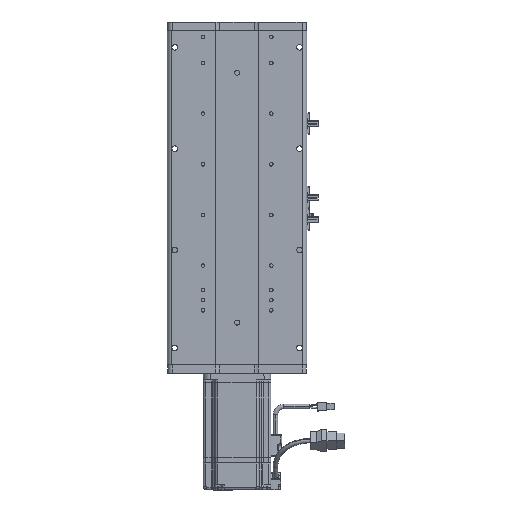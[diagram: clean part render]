
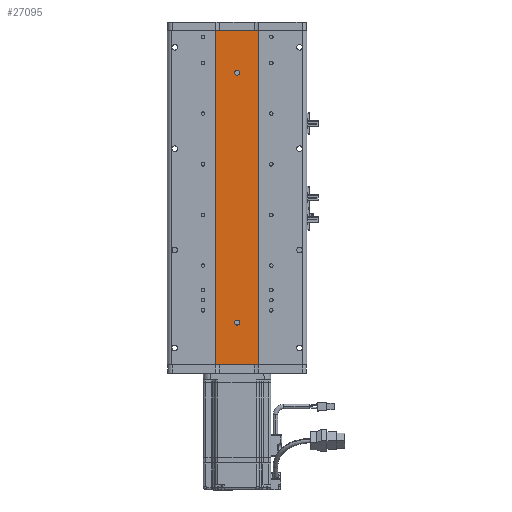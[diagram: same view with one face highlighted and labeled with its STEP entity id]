
A CAD part, front view. The second image highlights one B-rep face of the part: STEP entity #27095.
In plain terms, the highlighted planar face has unit normal (0, -1, 0).
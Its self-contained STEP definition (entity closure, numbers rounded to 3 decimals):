
#150 = CARTESIAN_POINT ( 'NONE',  ( 0., 1., -148. ) ) ;
#735 = DIRECTION ( 'NONE',  ( 0., 0., -1. ) ) ;
#922 = CIRCLE ( 'NONE', #6587, 3. ) ;
#2226 = ORIENTED_EDGE ( 'NONE', *, *, #7916, .F. ) ;
#2313 = EDGE_CURVE ( 'NONE', #44659, #35124, #46980, .T. ) ;
#2840 = FACE_OUTER_BOUND ( 'NONE', #23837, .T. ) ;
#4556 = EDGE_CURVE ( 'NONE', #35124, #44659, #26753, .T. ) ;
#4868 = DIRECTION ( 'NONE',  ( 0., 0., -1. ) ) ;
#5287 = CARTESIAN_POINT ( 'NONE',  ( -25., 1., 198. ) ) ;
#6036 = VERTEX_POINT ( 'NONE', #14733 ) ;
#6587 = AXIS2_PLACEMENT_3D ( 'NONE', #21035, #54085, #25762 ) ;
#7674 = LINE ( 'NONE', #5287, #29827 ) ;
#7916 = EDGE_CURVE ( 'NONE', #50359, #6036, #922, .T. ) ;
#9712 = VERTEX_POINT ( 'NONE', #20458 ) ;
#9937 = EDGE_LOOP ( 'NONE', ( #26350, #52030 ) ) ;
#10094 = CARTESIAN_POINT ( 'NONE',  ( 0., 1., -148. ) ) ;
#10465 = VERTEX_POINT ( 'NONE', #60266 ) ;
#12248 = CARTESIAN_POINT ( 'NONE',  ( 25., 1., 198. ) ) ;
#12926 = EDGE_CURVE ( 'NONE', #58947, #58556, #55099, .T. ) ;
#14424 = ORIENTED_EDGE ( 'NONE', *, *, #12926, .F. ) ;
#14733 = CARTESIAN_POINT ( 'NONE',  ( 0., 1., 145. ) ) ;
#14835 = CARTESIAN_POINT ( 'NONE',  ( 0., 1., -145. ) ) ;
#14874 = DIRECTION ( 'NONE',  ( 0., 0., -1. ) ) ;
#16251 = CARTESIAN_POINT ( 'NONE',  ( 25., 1., -198. ) ) ;
#16547 = ORIENTED_EDGE ( 'NONE', *, *, #38300, .F. ) ;
#18846 = DIRECTION ( 'NONE',  ( 0., 0., 1. ) ) ;
#20458 = CARTESIAN_POINT ( 'NONE',  ( -25., 1., 198. ) ) ;
#21035 = CARTESIAN_POINT ( 'NONE',  ( 0., 1., 148. ) ) ;
#21404 = DIRECTION ( 'NONE',  ( 0., -1., 0. ) ) ;
#22123 = DIRECTION ( 'NONE',  ( 1., 0., 0. ) ) ;
#23837 = EDGE_LOOP ( 'NONE', ( #27742, #14424, #32650, #31136 ) ) ;
#23851 = LINE ( 'NONE', #16251, #60147 ) ;
#25762 = DIRECTION ( 'NONE',  ( 0., 0., -1. ) ) ;
#26350 = ORIENTED_EDGE ( 'NONE', *, *, #4556, .F. ) ;
#26753 = CIRCLE ( 'NONE', #31278, 3. ) ;
#27095 = ADVANCED_FACE ( 'NONE', ( #53077, #29436, #2840 ), #42402, .F. ) ;
#27742 = ORIENTED_EDGE ( 'NONE', *, *, #39471, .T. ) ;
#28441 = VECTOR ( 'NONE', #38568, 1000. ) ;
#29436 = FACE_BOUND ( 'NONE', #51975, .T. ) ;
#29827 = VECTOR ( 'NONE', #735, 1000. ) ;
#30876 = EDGE_CURVE ( 'NONE', #9712, #58947, #34028, .T. ) ;
#31136 = ORIENTED_EDGE ( 'NONE', *, *, #49440, .T. ) ;
#31278 = AXIS2_PLACEMENT_3D ( 'NONE', #150, #33185, #4868 ) ;
#31432 = CARTESIAN_POINT ( 'NONE',  ( 0., 1., 151. ) ) ;
#32650 = ORIENTED_EDGE ( 'NONE', *, *, #30876, .F. ) ;
#33185 = DIRECTION ( 'NONE',  ( 0., -1., 0. ) ) ;
#33828 = CARTESIAN_POINT ( 'NONE',  ( 25., 1., 198. ) ) ;
#34028 = LINE ( 'NONE', #55202, #46571 ) ;
#35124 = VERTEX_POINT ( 'NONE', #45064 ) ;
#38300 = EDGE_CURVE ( 'NONE', #6036, #50359, #58095, .T. ) ;
#38568 = DIRECTION ( 'NONE',  ( 0., 0., -1. ) ) ;
#39471 = EDGE_CURVE ( 'NONE', #10465, #58556, #23851, .T. ) ;
#39715 = AXIS2_PLACEMENT_3D ( 'NONE', #55840, #47105, #18846 ) ;
#40306 = AXIS2_PLACEMENT_3D ( 'NONE', #49710, #21404, #54449 ) ;
#42402 = PLANE ( 'NONE',  #39715 ) ;
#43215 = DIRECTION ( 'NONE',  ( 0., -1., 0. ) ) ;
#44192 = AXIS2_PLACEMENT_3D ( 'NONE', #10094, #43215, #14874 ) ;
#44659 = VERTEX_POINT ( 'NONE', #14835 ) ;
#45064 = CARTESIAN_POINT ( 'NONE',  ( 0., 1., -151. ) ) ;
#46571 = VECTOR ( 'NONE', #22123, 1000. ) ;
#46980 = CIRCLE ( 'NONE', #44192, 3. ) ;
#47105 = DIRECTION ( 'NONE',  ( 0., 1., 0. ) ) ;
#49297 = DIRECTION ( 'NONE',  ( 1., 0., 0. ) ) ;
#49440 = EDGE_CURVE ( 'NONE', #9712, #10465, #7674, .T. ) ;
#49710 = CARTESIAN_POINT ( 'NONE',  ( 0., 1., 148. ) ) ;
#50359 = VERTEX_POINT ( 'NONE', #31432 ) ;
#51744 = CARTESIAN_POINT ( 'NONE',  ( 25., 1., -198. ) ) ;
#51975 = EDGE_LOOP ( 'NONE', ( #16547, #2226 ) ) ;
#52030 = ORIENTED_EDGE ( 'NONE', *, *, #2313, .F. ) ;
#53077 = FACE_BOUND ( 'NONE', #9937, .T. ) ;
#54085 = DIRECTION ( 'NONE',  ( 0., -1., 0. ) ) ;
#54449 = DIRECTION ( 'NONE',  ( 0., 0., -1. ) ) ;
#55099 = LINE ( 'NONE', #33828, #28441 ) ;
#55202 = CARTESIAN_POINT ( 'NONE',  ( 25., 1., 198. ) ) ;
#55840 = CARTESIAN_POINT ( 'NONE',  ( 25., 1., 198. ) ) ;
#58095 = CIRCLE ( 'NONE', #40306, 3. ) ;
#58556 = VERTEX_POINT ( 'NONE', #51744 ) ;
#58947 = VERTEX_POINT ( 'NONE', #12248 ) ;
#60147 = VECTOR ( 'NONE', #49297, 1000. ) ;
#60266 = CARTESIAN_POINT ( 'NONE',  ( -25., 1., -198. ) ) ;
